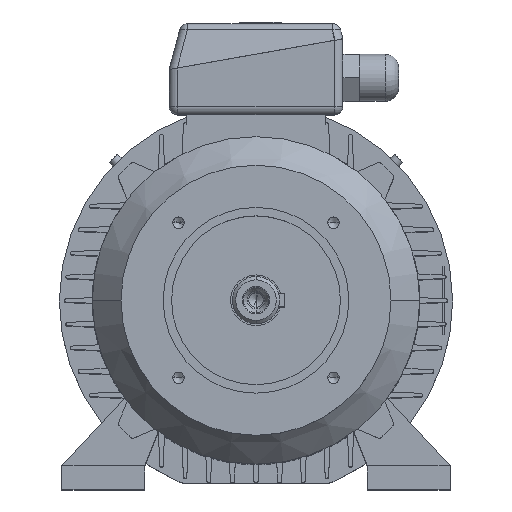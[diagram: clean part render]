
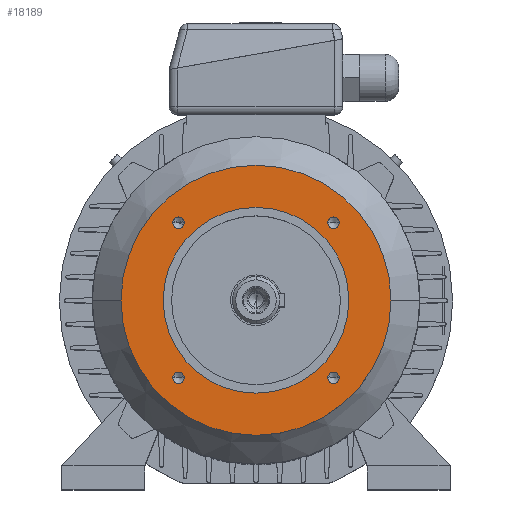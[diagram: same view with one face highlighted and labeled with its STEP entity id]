
A CAD part, top view. The second image highlights one B-rep face of the part: STEP entity #18189.
In plain terms, the highlighted planar face has unit normal (0, 0, 1).
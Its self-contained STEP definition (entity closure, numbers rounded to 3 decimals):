
#16394 = EDGE_LOOP ( 'NONE', ( #15760, #14646 ) ) ;
#99 = CIRCLE ( 'NONE', #100, 3.4 ) ;
#100 = AXIS2_PLACEMENT_3D ( 'NONE', #101, #102, #103 ) ;
#101 = CARTESIAN_POINT ( 'NONE',  ( -45.962, -45.962, 51. ) ) ;
#102 = DIRECTION ( 'NONE',  ( 0., 0., 1. ) ) ;
#103 = DIRECTION ( 'NONE',  ( 1., 0., 0. ) ) ;
#16520 = CARTESIAN_POINT ( 'NONE',  ( -55., 0., 51. ) ) ;
#150 = VERTEX_POINT ( 'NONE', #11372 ) ;
#16585 = EDGE_CURVE ( 'NONE', #7554, #7817, #7544, .T. ) ;
#16669 = CARTESIAN_POINT ( 'NONE',  ( 55., 0., 51. ) ) ;
#432 = EDGE_CURVE ( 'NONE', #1524, #150, #11532, .T. ) ;
#16906 = CIRCLE ( 'NONE', #16907, 55. ) ;
#16907 = AXIS2_PLACEMENT_3D ( 'NONE', #16908, #16915, #16916 ) ;
#16908 = CARTESIAN_POINT ( 'NONE',  ( 0., 0., 51. ) ) ;
#16914 = ORIENTED_EDGE ( 'NONE', *, *, #10511, .T. ) ;
#16915 = DIRECTION ( 'NONE',  ( 0., 0., 1. ) ) ;
#16916 = DIRECTION ( 'NONE',  ( 1., 0., 0. ) ) ;
#810 = CARTESIAN_POINT ( 'NONE',  ( -49.362, -45.962, 51. ) ) ;
#17367 = ORIENTED_EDGE ( 'NONE', *, *, #4492, .T. ) ;
#1173 = CIRCLE ( 'NONE', #1174, 80. ) ;
#1174 = AXIS2_PLACEMENT_3D ( 'NONE', #1175, #1176, #1177 ) ;
#1175 = CARTESIAN_POINT ( 'NONE',  ( 0., 0., 51. ) ) ;
#1176 = DIRECTION ( 'NONE',  ( 0., 0., 1. ) ) ;
#1177 = DIRECTION ( 'NONE',  ( 1., 0., 0. ) ) ;
#17900 = EDGE_LOOP ( 'NONE', ( #2417, #18263 ) ) ;
#1524 = VERTEX_POINT ( 'NONE', #12365 ) ;
#18010 = EDGE_LOOP ( 'NONE', ( #17367, #16914 ) ) ;
#18189 = ADVANCED_FACE ( 'NONE', ( #8759, #8760, #8761, #8762, #8763, #8764 ), #8765, .F. ) ;
#18263 = ORIENTED_EDGE ( 'NONE', *, *, #432, .F. ) ;
#1976 = EDGE_CURVE ( 'NONE', #150, #1524, #12660, .T. ) ;
#2417 = ORIENTED_EDGE ( 'NONE', *, *, #1976, .F. ) ;
#18888 = CARTESIAN_POINT ( 'NONE',  ( -42.562, -45.962, 51. ) ) ;
#3064 = CARTESIAN_POINT ( 'NONE',  ( 49.362, -45.962, 51. ) ) ;
#3241 = CIRCLE ( 'NONE', #3242, 3.4 ) ;
#3242 = AXIS2_PLACEMENT_3D ( 'NONE', #3243, #3244, #3245 ) ;
#3243 = CARTESIAN_POINT ( 'NONE',  ( 45.962, -45.962, 51. ) ) ;
#3244 = DIRECTION ( 'NONE',  ( 0., 0., 1. ) ) ;
#3245 = DIRECTION ( 'NONE',  ( 1., 0., 0. ) ) ;
#3388 = CARTESIAN_POINT ( 'NONE',  ( -42.562, 45.962, 51. ) ) ;
#3887 = CIRCLE ( 'NONE', #3888, 3.4 ) ;
#3888 = AXIS2_PLACEMENT_3D ( 'NONE', #3889, #3890, #3891 ) ;
#3889 = CARTESIAN_POINT ( 'NONE',  ( -45.962, 45.962, 51. ) ) ;
#3890 = DIRECTION ( 'NONE',  ( 0., 0., 1. ) ) ;
#3891 = DIRECTION ( 'NONE',  ( 1., 0., 0. ) ) ;
#3978 = CARTESIAN_POINT ( 'NONE',  ( 42.562, -45.962, 51. ) ) ;
#4211 = VERTEX_POINT ( 'NONE', #14177 ) ;
#4492 = EDGE_CURVE ( 'NONE', #4211, #5774, #14371, .T. ) ;
#5388 = CIRCLE ( 'NONE', #5389, 3.4 ) ;
#5389 = AXIS2_PLACEMENT_3D ( 'NONE', #5396, #5397, #5398 ) ;
#5391 = EDGE_CURVE ( 'NONE', #6475, #12001, #15015, .T. ) ;
#5396 = CARTESIAN_POINT ( 'NONE',  ( 45.962, -45.962, 51. ) ) ;
#5397 = DIRECTION ( 'NONE',  ( 0., 0., 1. ) ) ;
#5398 = DIRECTION ( 'NONE',  ( 1., 0., 0. ) ) ;
#5774 = VERTEX_POINT ( 'NONE', #15328 ) ;
#6475 = VERTEX_POINT ( 'NONE', #15784 ) ;
#6572 = CIRCLE ( 'NONE', #6573, 3.4 ) ;
#6573 = AXIS2_PLACEMENT_3D ( 'NONE', #6574, #6575, #6576 ) ;
#6574 = CARTESIAN_POINT ( 'NONE',  ( -45.962, -45.962, 51. ) ) ;
#6575 = DIRECTION ( 'NONE',  ( 0., 0., 1. ) ) ;
#6576 = DIRECTION ( 'NONE',  ( 1., 0., 0. ) ) ;
#7544 = CIRCLE ( 'NONE', #7545, 55. ) ;
#7545 = AXIS2_PLACEMENT_3D ( 'NONE', #7546, #7560, #7561 ) ;
#7546 = CARTESIAN_POINT ( 'NONE',  ( 0., 0., 51. ) ) ;
#7554 = VERTEX_POINT ( 'NONE', #16520 ) ;
#7560 = DIRECTION ( 'NONE',  ( 0., 0., 1. ) ) ;
#7561 = DIRECTION ( 'NONE',  ( 1., 0., 0. ) ) ;
#7817 = VERTEX_POINT ( 'NONE', #16669 ) ;
#8090 = EDGE_CURVE ( 'NONE', #7817, #7554, #16906, .T. ) ;
#8759 = FACE_BOUND ( 'NONE', #17900, .T. ) ;
#8760 = FACE_OUTER_BOUND ( 'NONE', #18010, .T. ) ;
#8761 = FACE_BOUND ( 'NONE', #10422, .T. ) ;
#8762 = FACE_BOUND ( 'NONE', #16394, .T. ) ;
#8763 = FACE_BOUND ( 'NONE', #14362, .T. ) ;
#8764 = FACE_BOUND ( 'NONE', #12715, .T. ) ;
#8765 = PLANE ( 'NONE',  #8769 ) ;
#8769 = AXIS2_PLACEMENT_3D ( 'NONE', #8770, #8771, #8772 ) ;
#8770 = CARTESIAN_POINT ( 'NONE',  ( 0., 80., 51. ) ) ;
#8771 = DIRECTION ( 'NONE',  ( 0., 0., -1. ) ) ;
#8772 = DIRECTION ( 'NONE',  ( -1., 0., 0. ) ) ;
#9972 = VERTEX_POINT ( 'NONE', #18888 ) ;
#10002 = ORIENTED_EDGE ( 'NONE', *, *, #16585, .F. ) ;
#10052 = EDGE_CURVE ( 'NONE', #10371, #9972, #99, .T. ) ;
#10174 = ORIENTED_EDGE ( 'NONE', *, *, #8090, .F. ) ;
#10371 = VERTEX_POINT ( 'NONE', #810 ) ;
#10422 = EDGE_LOOP ( 'NONE', ( #10174, #10002 ) ) ;
#10511 = EDGE_CURVE ( 'NONE', #5774, #4211, #1173, .T. ) ;
#11372 = CARTESIAN_POINT ( 'NONE',  ( 49.362, 45.962, 51. ) ) ;
#11494 = VERTEX_POINT ( 'NONE', #3064 ) ;
#11532 = CIRCLE ( 'NONE', #11533, 3.4 ) ;
#11533 = AXIS2_PLACEMENT_3D ( 'NONE', #11534, #11541, #11542 ) ;
#11534 = CARTESIAN_POINT ( 'NONE',  ( 45.962, 45.962, 51. ) ) ;
#11541 = DIRECTION ( 'NONE',  ( 0., 0., 1. ) ) ;
#11542 = DIRECTION ( 'NONE',  ( 1., 0., 0. ) ) ;
#11768 = EDGE_CURVE ( 'NONE', #12855, #11494, #3241, .T. ) ;
#12001 = VERTEX_POINT ( 'NONE', #3388 ) ;
#12086 = ORIENTED_EDGE ( 'NONE', *, *, #5391, .F. ) ;
#12365 = CARTESIAN_POINT ( 'NONE',  ( 42.562, 45.962, 51. ) ) ;
#12660 = CIRCLE ( 'NONE', #12661, 3.4 ) ;
#12661 = AXIS2_PLACEMENT_3D ( 'NONE', #12662, #12663, #12664 ) ;
#12662 = CARTESIAN_POINT ( 'NONE',  ( 45.962, 45.962, 51. ) ) ;
#12663 = DIRECTION ( 'NONE',  ( 0., 0., 1. ) ) ;
#12664 = DIRECTION ( 'NONE',  ( 1., 0., 0. ) ) ;
#12715 = EDGE_LOOP ( 'NONE', ( #13126, #12086 ) ) ;
#12716 = EDGE_CURVE ( 'NONE', #12001, #6475, #3887, .T. ) ;
#12855 = VERTEX_POINT ( 'NONE', #3978 ) ;
#13018 = ORIENTED_EDGE ( 'NONE', *, *, #11768, .F. ) ;
#13126 = ORIENTED_EDGE ( 'NONE', *, *, #12716, .F. ) ;
#13646 = EDGE_CURVE ( 'NONE', #11494, #12855, #5388, .T. ) ;
#13943 = ORIENTED_EDGE ( 'NONE', *, *, #13646, .F. ) ;
#14177 = CARTESIAN_POINT ( 'NONE',  ( 80., 0., 51. ) ) ;
#14362 = EDGE_LOOP ( 'NONE', ( #13943, #13018 ) ) ;
#14371 = CIRCLE ( 'NONE', #14372, 80. ) ;
#14372 = AXIS2_PLACEMENT_3D ( 'NONE', #14373, #14374, #14375 ) ;
#14373 = CARTESIAN_POINT ( 'NONE',  ( 0., 0., 51. ) ) ;
#14374 = DIRECTION ( 'NONE',  ( 0., 0., 1. ) ) ;
#14375 = DIRECTION ( 'NONE',  ( 1., 0., 0. ) ) ;
#14646 = ORIENTED_EDGE ( 'NONE', *, *, #10052, .F. ) ;
#15015 = CIRCLE ( 'NONE', #15016, 3.4 ) ;
#15016 = AXIS2_PLACEMENT_3D ( 'NONE', #15017, #15018, #15019 ) ;
#15017 = CARTESIAN_POINT ( 'NONE',  ( -45.962, 45.962, 51. ) ) ;
#15018 = DIRECTION ( 'NONE',  ( 0., 0., 1. ) ) ;
#15019 = DIRECTION ( 'NONE',  ( 1., 0., 0. ) ) ;
#15294 = EDGE_CURVE ( 'NONE', #9972, #10371, #6572, .T. ) ;
#15328 = CARTESIAN_POINT ( 'NONE',  ( -80., 0., 51. ) ) ;
#15760 = ORIENTED_EDGE ( 'NONE', *, *, #15294, .F. ) ;
#15784 = CARTESIAN_POINT ( 'NONE',  ( -49.362, 45.962, 51. ) ) ;
